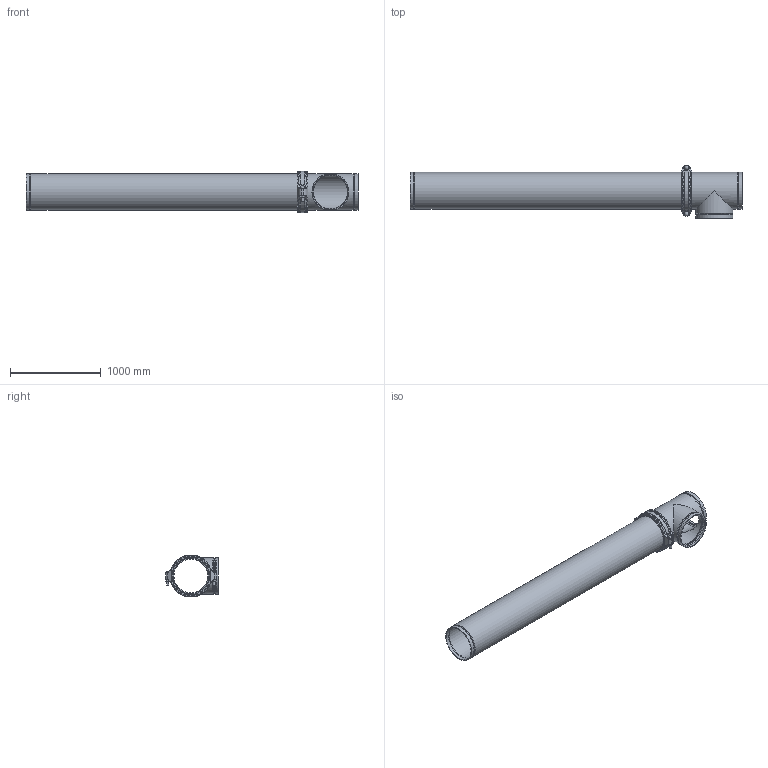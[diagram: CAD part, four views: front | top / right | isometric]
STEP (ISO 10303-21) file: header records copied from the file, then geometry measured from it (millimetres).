
FILE_DESCRIPTION(/* description */ ('VIC AGS LONG RUN FITTING No WR25 (AGS)','CAx-IF Rec.Pracs.---Representation and Presentation of Product Manufacturing Information (PMI)---4.0---2014-10-13'),/* implementation_level */ '2;1');
FILE_NAME(/* name */ 'C:\Users\kkamble\AppData\Roaming\Autodesk\ApplicationPlugins\Back Up\Victaulic_AGS_Long Run Fittings_No WR25 (AGS)\Victaulic_AGS_Long Run Fittings_No WR25 (AGS)_16 (400).stp',/* time_stamp */ '2020-10-07T03:12:21+06:00',/* author */ ('kkamble'),/* organization */ ('Victaulic'),/* preprocessor_version */ 'ST-DEVELOPER v17.2',/* originating_system */ 'Autodesk Inventor 2019',/* authorisation */ '');
FILE_SCHEMA (('AP242_MANAGED_MODEL_BASED_3D_ENGINEERING_MIM_LF { 1 0 10303 442 1 1 4 }'));
Length unit declared in the file: inch
Products named in the file (4): WR25-16.0; WR25-16.0_1; W77-16.0; W20-16.0
Assembly tree (3 placements, depth 2):
  WR25-16.0
    WR25-16.0_1
    W77-16.0
    W20-16.0
Bounding box: 3665.47 x 584.2 x 463.49 mm (x, y, z)
Volume: 48914749 mm3; surface area: 9849801.8 mm2
Topology: 3 solids, 5 shells, 308 faces, 917 edges, 633 vertices
Faces by surface type: cylinder 129, plane 108, torus 56, cone 13, sphere 2
Full cylindrical faces by diameter (mm): 25.4 x4, 42.85 x2, 374.65 x3, 381 x1, 387.35 x6, 393.7 x5, 406.4 x10
Entity records: 12948 total; most frequent: CARTESIAN_POINT 4087, ORIENTED_EDGE 1834, DIRECTION 1764, EDGE_CURVE 917, AXIS2_PLACEMENT_3D 724, VERTEX_POINT 633, CIRCLE 399, EDGE_LOOP 334
